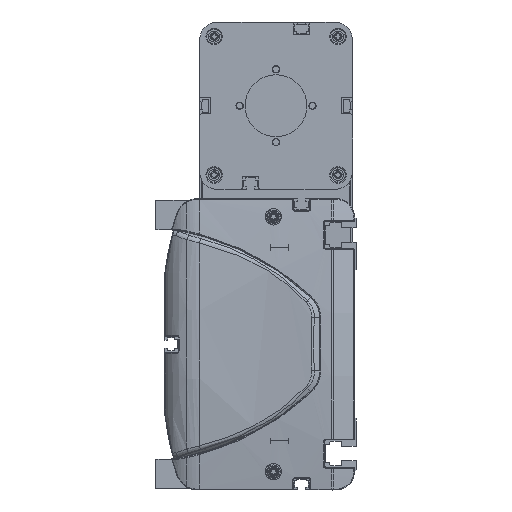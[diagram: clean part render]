
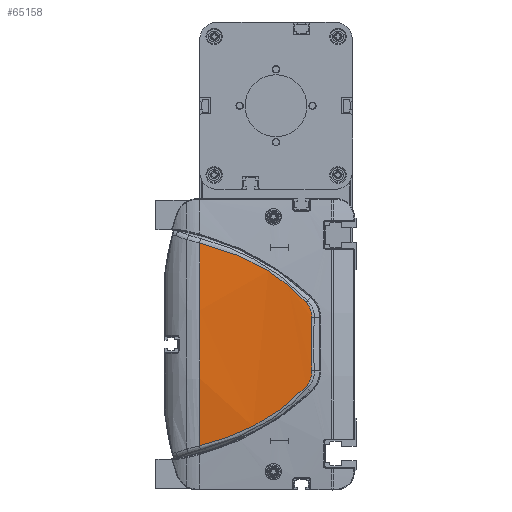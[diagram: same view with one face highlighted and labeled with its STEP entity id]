
A CAD part, left-side view. The second image highlights one B-rep face of the part: STEP entity #65158.
In plain terms, the highlighted cylindrical face has radius 600 mm (diameter 1200 mm), a partial arc.
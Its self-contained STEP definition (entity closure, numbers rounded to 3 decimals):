
#59988=CARTESIAN_POINT('',(-12.406,86.,
55.736));
#59989=CARTESIAN_POINT('',(-12.529,80.495,
54.41));
#59990=CARTESIAN_POINT('',(-12.828,69.636,
51.114));
#59991=CARTESIAN_POINT('',(-13.389,54.079,
44.179));
#59992=CARTESIAN_POINT('',(-14.01,39.709,
34.979));
#59993=CARTESIAN_POINT('',(-14.395,31.353,
27.243));
#59994=CARTESIAN_POINT('',(-14.555,27.451,
23.113));
#59996=CARTESIAN_POINT('',(-14.555,27.451,
23.113));
#59997=CARTESIAN_POINT('',(-14.598,26.394,
21.994));
#59998=CARTESIAN_POINT('',(-14.695,24.746,
19.315));
#59999=CARTESIAN_POINT('',(-14.783,24.276,
16.208));
#60000=CARTESIAN_POINT('',(-14.821,24.351,
14.67));
#60002=CARTESIAN_POINT('',(-14.821,24.351,
14.67));
#60003=CARTESIAN_POINT('',(-14.9,24.51,
11.413));
#60004=CARTESIAN_POINT('',(-15.007,24.721,
4.895));
#60005=CARTESIAN_POINT('',(-15.007,24.721,
-4.895));
#60006=CARTESIAN_POINT('',(-14.9,24.51,
-11.413));
#60007=CARTESIAN_POINT('',(-14.821,24.351,
-14.67));
#60009=CARTESIAN_POINT('',(-14.821,24.351,
-14.67));
#60010=CARTESIAN_POINT('',(-14.783,24.276,
-16.208));
#60011=CARTESIAN_POINT('',(-14.695,24.746,
-19.315));
#60012=CARTESIAN_POINT('',(-14.598,26.394,
-21.995));
#60013=CARTESIAN_POINT('',(-14.555,27.451,
-23.113));
#60015=CARTESIAN_POINT('',(-14.555,27.451,
-23.113));
#60016=CARTESIAN_POINT('',(-14.395,31.353,
-27.243));
#60017=CARTESIAN_POINT('',(-14.01,39.709,
-34.979));
#60018=CARTESIAN_POINT('',(-13.389,54.079,
-44.179));
#60019=CARTESIAN_POINT('',(-12.828,69.636,
-51.114));
#60020=CARTESIAN_POINT('',(-12.529,80.495,
-54.41));
#60021=CARTESIAN_POINT('',(-12.406,86.,
-55.736));
#60023=CARTESIAN_POINT('',(585.,86.,0.));
#60024=DIRECTION('',(0.,1.,0.));
#60025=DIRECTION('',(-0.996,0.,-0.093));
#60026=AXIS2_PLACEMENT_3D('',#60023,#60024,#60025);
#60039=CARTESIAN_POINT('',(-12.406,86.,
55.736));
#60562=VERTEX_POINT('',#60039);
#60563=CARTESIAN_POINT('',(-12.406,86.,
-55.736));
#60564=VERTEX_POINT('',#60563);
#60616=VERTEX_POINT('',#59994);
#60617=VERTEX_POINT('',#60000);
#60618=VERTEX_POINT('',#60007);
#60619=VERTEX_POINT('',#60013);
#65140=CARTESIAN_POINT('',(585.,87.45,0.));
#65141=DIRECTION('',(0.,-1.,0.));
#65142=DIRECTION('',(0.,0.,-1.));
#65143=AXIS2_PLACEMENT_3D('',#65140,#65141,#65142);
#65144=CYLINDRICAL_SURFACE('',#65143,600.);
#65146=ORIENTED_EDGE('',*,*,#65145,.T.);
#65148=ORIENTED_EDGE('',*,*,#65147,.T.);
#65149=ORIENTED_EDGE('',*,*,#65130,.T.);
#65151=ORIENTED_EDGE('',*,*,#65150,.T.);
#65153=ORIENTED_EDGE('',*,*,#65152,.T.);
#65155=ORIENTED_EDGE('',*,*,#65154,.T.);
#65156=EDGE_LOOP('',(#65146,#65148,#65149,#65151,#65153,#65155));
#65157=FACE_OUTER_BOUND('',#65156,.F.);
#65158=ADVANCED_FACE('',(#65157),#65144,.T.);
#59995=B_SPLINE_CURVE_WITH_KNOTS('',3,(#59988,#59989,#59990,#59991,#59992,
#59993,#59994),.UNSPECIFIED.,.F.,.F.,(4,1,1,1,4),(0.,0.25,0.5,0.75,
1.),.UNSPECIFIED.);
#60001=B_SPLINE_CURVE_WITH_KNOTS('',3,(#59996,#59997,#59998,#59999,#60000),
.UNSPECIFIED.,.F.,.F.,(4,1,4),(0.,0.5,1.),.UNSPECIFIED.);
#60008=B_SPLINE_CURVE_WITH_KNOTS('',3,(#60002,#60003,#60004,#60005,#60006,
#60007),.UNSPECIFIED.,.F.,.F.,(4,1,1,4),(0.,0.333,
0.667,1.),.UNSPECIFIED.);
#60014=B_SPLINE_CURVE_WITH_KNOTS('',3,(#60009,#60010,#60011,#60012,#60013),
.UNSPECIFIED.,.F.,.F.,(4,1,4),(0.,0.5,1.),.UNSPECIFIED.);
#60022=B_SPLINE_CURVE_WITH_KNOTS('',3,(#60015,#60016,#60017,#60018,#60019,
#60020,#60021),.UNSPECIFIED.,.F.,.F.,(4,1,1,1,4),(0.,0.25,0.5,0.75,
1.),.UNSPECIFIED.);
#60027=CIRCLE('',#60026,600.);
#65130=EDGE_CURVE('',#60617,#60618,#60008,.T.);
#65145=EDGE_CURVE('',#60562,#60616,#59995,.T.);
#65147=EDGE_CURVE('',#60616,#60617,#60001,.T.);
#65150=EDGE_CURVE('',#60618,#60619,#60014,.T.);
#65152=EDGE_CURVE('',#60619,#60564,#60022,.T.);
#65154=EDGE_CURVE('',#60564,#60562,#60027,.T.);
